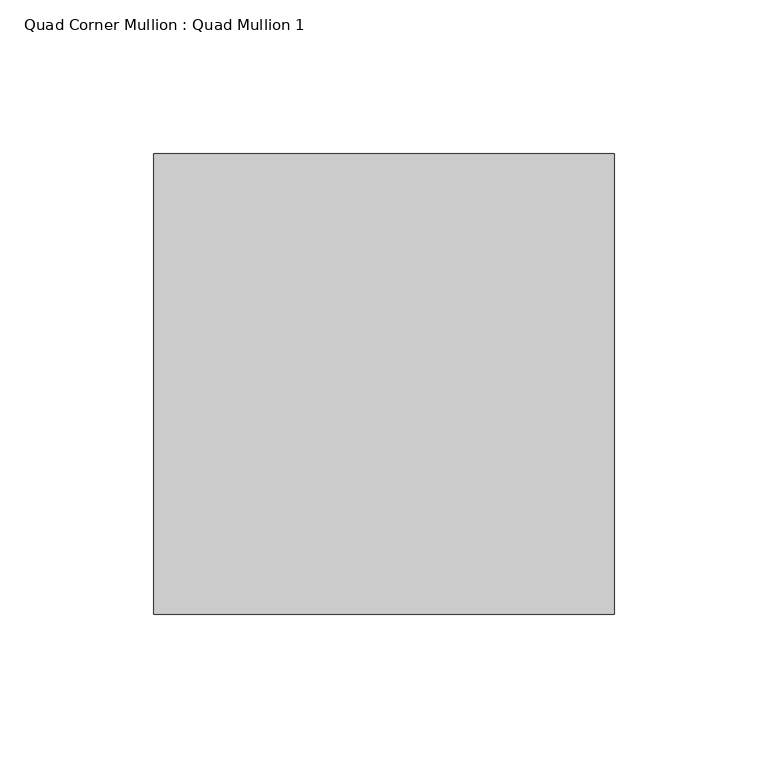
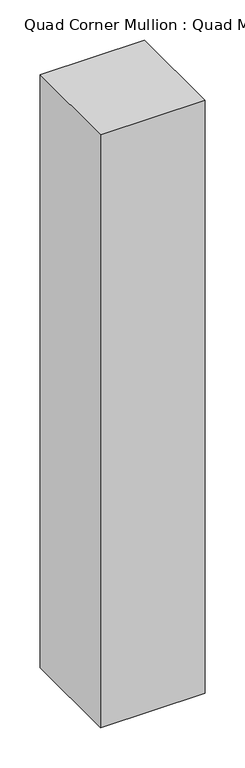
"""IFC4 building model written with IfcOpenShell, lengths in millimetres: member geometry, Quad Corner Mullion : Quad Mullion 1."""

from ifc_helpers import new_model, si_unit, frame, origin, place, context, project, spatial, polyline, outline, extrude, source, transform, mapped, element, save


def quad_corner_mullion_quad_mullion_1_437f71a9(model_context):
    return source(origin(), model_context, "Body", "SweptSolid", [
        extrude(outline(polyline([(75.0, -75.0), (-75.0, -75.0), (-75.0, 75.0), (75.0, 75.0), (75.0, -75.0)])), frame((0.0, 0.0, -900.0), z_axis=(0.0, 0.0, 1.0), x_axis=(1.0, 0.0, 0.0)), (0.0, 0.0, 1.0), 900.0),
    ])


if __name__ == "__main__":
    model = new_model("IFC4")
    model_context = context("Model", 3, world=origin())
    ifc_project = project(units=[si_unit("LENGTHUNIT", "METRE", prefix="MILLI")], contexts=[model_context])
    site = spatial("IfcSite", under=ifc_project)
    building = spatial("IfcBuilding", under=site)
    placement = place(None, origin())
    quad_corner_mullion_quad_mullion_1_shape = quad_corner_mullion_quad_mullion_1_437f71a9(model_context)
    element("IfcMember", 1, ObjectType="Quad Corner Mullion : Quad Mullion 1", at=placement, inside=building, context=model_context, shape_type="MappedRepresentation", body=[
        mapped(quad_corner_mullion_quad_mullion_1_shape, transform((0.0, 0.0, 0.0), x_axis=(1.0, 0.0, 0.0), y_axis=(0.0, 1.0, 0.0), z_axis=(0.0, 0.0, 1.0))),
    ])
    save(model, "model.ifc")
